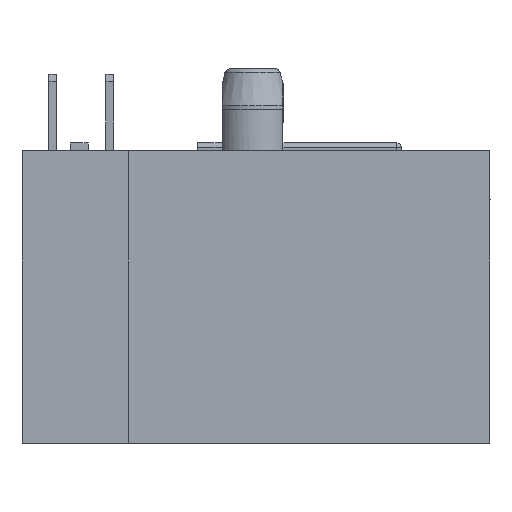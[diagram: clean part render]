
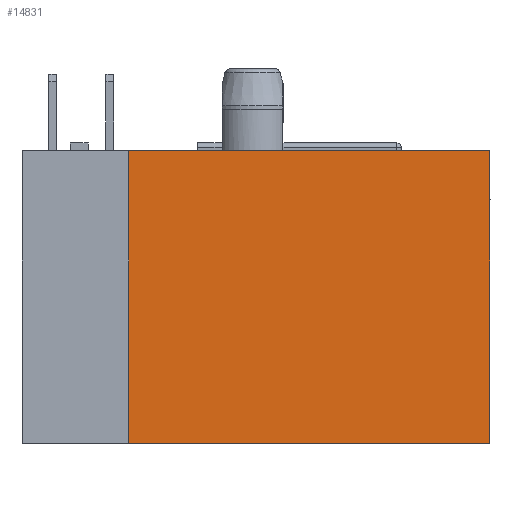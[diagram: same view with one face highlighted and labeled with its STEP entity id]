
A CAD part, left-side view. The second image highlights one B-rep face of the part: STEP entity #14831.
In plain terms, the highlighted planar face has unit normal (-1, 0, 0).
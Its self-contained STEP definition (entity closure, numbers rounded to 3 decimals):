
#1157=DIRECTION('',(0.,-1.,0.));
#1158=VECTOR('',#1157,16.05);
#1159=CARTESIAN_POINT('',(-7.75,16.3,0.25));
#1160=LINE('',#1159,#1158);
#2625=DIRECTION('',(0.,0.,1.));
#2626=VECTOR('',#2625,13.);
#2627=CARTESIAN_POINT('',(-7.75,16.3,0.25));
#2628=LINE('',#2627,#2626);
#2629=DIRECTION('',(0.,-1.,0.));
#2630=VECTOR('',#2629,16.05);
#2631=CARTESIAN_POINT('',(-7.75,16.3,13.25));
#2632=LINE('',#2631,#2630);
#2633=DIRECTION('',(0.,0.,-1.));
#2634=VECTOR('',#2633,13.);
#2635=CARTESIAN_POINT('',(-7.75,0.25,13.25));
#2636=LINE('',#2635,#2634);
#10600=CARTESIAN_POINT('',(-7.75,0.25,13.25));
#10601=CARTESIAN_POINT('',(-7.75,0.25,0.25));
#10602=VERTEX_POINT('',#10600);
#10603=VERTEX_POINT('',#10601);
#10756=CARTESIAN_POINT('',(-7.75,16.3,0.25));
#10757=VERTEX_POINT('',#10756);
#10764=CARTESIAN_POINT('',(-7.75,16.3,13.25));
#10765=VERTEX_POINT('',#10764);
#14819=CARTESIAN_POINT('',(-7.75,8.275,6.75));
#14820=DIRECTION('',(1.,0.,0.));
#14821=DIRECTION('',(0.,1.,0.));
#14822=AXIS2_PLACEMENT_3D('',#14819,#14820,#14821);
#14823=PLANE('',#14822);
#14824=ORIENTED_EDGE('',*,*,#13002,.F.);
#14826=ORIENTED_EDGE('',*,*,#14825,.T.);
#14827=ORIENTED_EDGE('',*,*,#13055,.T.);
#14828=ORIENTED_EDGE('',*,*,#12780,.T.);
#14829=EDGE_LOOP('',(#14824,#14826,#14827,#14828));
#14830=FACE_OUTER_BOUND('',#14829,.F.);
#14831=ADVANCED_FACE('',(#14830),#14823,.F.);
#12780=EDGE_CURVE('',#10602,#10603,#2636,.T.);
#13002=EDGE_CURVE('',#10757,#10603,#1160,.T.);
#13055=EDGE_CURVE('',#10765,#10602,#2632,.T.);
#14825=EDGE_CURVE('',#10757,#10765,#2628,.T.);
